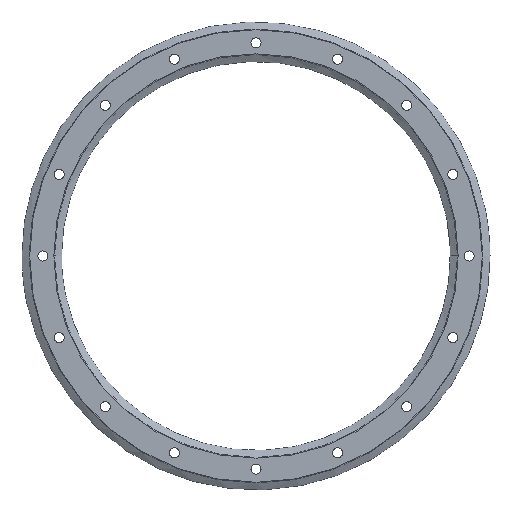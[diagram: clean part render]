
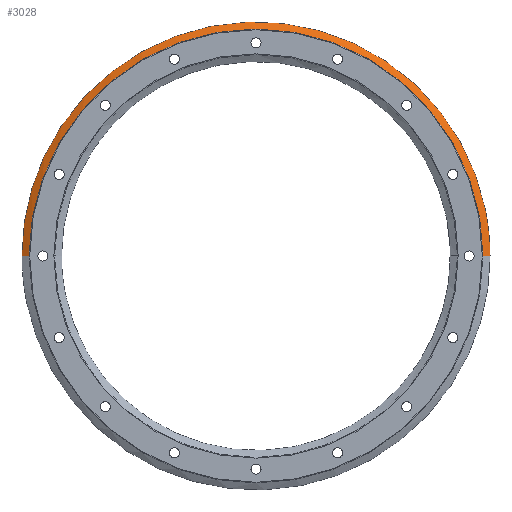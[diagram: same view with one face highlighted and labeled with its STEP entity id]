
A CAD part, top view. The second image highlights one B-rep face of the part: STEP entity #3028.
In plain terms, the highlighted conical face has half-angle 60.255 degrees and reference radius 86.57 mm.
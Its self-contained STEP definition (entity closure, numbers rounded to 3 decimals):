
#44 = AXIS2_PLACEMENT_3D ( 'NONE', #2201, #760, #475 ) ;
#81 = CARTESIAN_POINT ( 'NONE',  ( -89.37, 0., 0.7 ) ) ;
#115 = CARTESIAN_POINT ( 'NONE',  ( -17.067, 87.725, 0.7 ) ) ;
#121 = AXIS2_PLACEMENT_3D ( 'NONE', #1869, #3353, #3575 ) ;
#123 = AXIS2_PLACEMENT_3D ( 'NONE', #3334, #1280, #757 ) ;
#181 = CONICAL_SURFACE ( 'NONE', #2253, 86.57, 1.052 ) ;
#187 = CARTESIAN_POINT ( 'NONE',  ( 49.962, 74.099, 0.7 ) ) ;
#212 = CARTESIAN_POINT ( 'NONE',  ( 86.57, 0., 2.3 ) ) ;
#238 = AXIS2_PLACEMENT_3D ( 'NONE', #3079, #517, #2967 ) ;
#240 = CIRCLE ( 'NONE', #668, 89.37 ) ;
#274 = EDGE_CURVE ( 'NONE', #2383, #2773, #1086, .T. ) ;
#400 = VERTEX_POINT ( 'NONE', #3154 ) ;
#418 = CARTESIAN_POINT ( 'NONE',  ( 0., 0., 0.7 ) ) ;
#431 = CARTESIAN_POINT ( 'NONE',  ( -74.099, 49.962, 0.7 ) ) ;
#442 = CARTESIAN_POINT ( 'NONE',  ( -86.57, 0., 2.3 ) ) ;
#465 = ORIENTED_EDGE ( 'NONE', *, *, #2636, .F. ) ;
#475 = DIRECTION ( 'NONE',  ( 1., 0., 0. ) ) ;
#479 = CARTESIAN_POINT ( 'NONE',  ( 87.578, 17.803, 0.7 ) ) ;
#507 = FACE_OUTER_BOUND ( 'NONE', #3253, .T. ) ;
#510 = VERTEX_POINT ( 'NONE', #1644 ) ;
#517 = DIRECTION ( 'NONE',  ( 0., 0., -1. ) ) ;
#654 = ORIENTED_EDGE ( 'NONE', *, *, #980, .F. ) ;
#668 = AXIS2_PLACEMENT_3D ( 'NONE', #3552, #1251, #901 ) ;
#683 = DIRECTION ( 'NONE',  ( 0., 0., -1. ) ) ;
#710 = CARTESIAN_POINT ( 'NONE',  ( 86.685, 0., 2.234 ) ) ;
#748 = DIRECTION ( 'NONE',  ( -0.868, 0., -0.496 ) ) ;
#757 = DIRECTION ( 'NONE',  ( 1., 0., 0. ) ) ;
#760 = DIRECTION ( 'NONE',  ( 0., 0., -1. ) ) ;
#853 = ORIENTED_EDGE ( 'NONE', *, *, #1937, .F. ) ;
#871 = ORIENTED_EDGE ( 'NONE', *, *, #274, .F. ) ;
#901 = DIRECTION ( 'NONE',  ( 1., 0., 0. ) ) ;
#932 = DIRECTION ( 'NONE',  ( 0., 0., -1. ) ) ;
#980 = EDGE_CURVE ( 'NONE', #2669, #1382, #3285, .T. ) ;
#1010 = DIRECTION ( 'NONE',  ( -0.707, -0.707, 0. ) ) ;
#1086 = CIRCLE ( 'NONE', #2627, 89.37 ) ;
#1113 = AXIS2_PLACEMENT_3D ( 'NONE', #418, #683, #3514 ) ;
#1129 = CIRCLE ( 'NONE', #238, 89.37 ) ;
#1224 = CARTESIAN_POINT ( 'NONE',  ( -86.685, 0., 2.234 ) ) ;
#1251 = DIRECTION ( 'NONE',  ( 0., 0., -1. ) ) ;
#1280 = DIRECTION ( 'NONE',  ( 0., 0., -1. ) ) ;
#1300 = CARTESIAN_POINT ( 'NONE',  ( 0., 0., 0.7 ) ) ;
#1304 = DIRECTION ( 'NONE',  ( 0., 0., -1. ) ) ;
#1308 = ORIENTED_EDGE ( 'NONE', *, *, #2793, .F. ) ;
#1361 = VERTEX_POINT ( 'NONE', #2337 ) ;
#1382 = VERTEX_POINT ( 'NONE', #81 ) ;
#1424 = DIRECTION ( 'NONE',  ( 1., 0., 0. ) ) ;
#1428 = CARTESIAN_POINT ( 'NONE',  ( 0., 0., 0.7 ) ) ;
#1470 = VECTOR ( 'NONE', #2479, 1000. ) ;
#1512 = ORIENTED_EDGE ( 'NONE', *, *, #2122, .T. ) ;
#1534 = CIRCLE ( 'NONE', #1708, 89.37 ) ;
#1538 = CIRCLE ( 'NONE', #2981, 89.37 ) ;
#1559 = CARTESIAN_POINT ( 'NONE',  ( 0., 0., 0.7 ) ) ;
#1644 = CARTESIAN_POINT ( 'NONE',  ( 87.725, 17.067, 0.7 ) ) ;
#1697 = CIRCLE ( 'NONE', #1113, 89.37 ) ;
#1708 = AXIS2_PLACEMENT_3D ( 'NONE', #1428, #932, #2572 ) ;
#1869 = CARTESIAN_POINT ( 'NONE',  ( 0., 0., 0.7 ) ) ;
#1898 = CIRCLE ( 'NONE', #121, 89.37 ) ;
#1937 = EDGE_CURVE ( 'NONE', #1382, #2383, #1697, .T. ) ;
#2015 = EDGE_CURVE ( 'NONE', #2773, #2247, #2784, .T. ) ;
#2074 = ORIENTED_EDGE ( 'NONE', *, *, #3442, .F. ) ;
#2076 = CIRCLE ( 'NONE', #123, 89.37 ) ;
#2096 = CARTESIAN_POINT ( 'NONE',  ( -74.516, 49.339, 0.7 ) ) ;
#2122 = EDGE_CURVE ( 'NONE', #3096, #1361, #2763, .T. ) ;
#2157 = DIRECTION ( 'NONE',  ( 0., 0., -1. ) ) ;
#2201 = CARTESIAN_POINT ( 'NONE',  ( 0., 0., 0.7 ) ) ;
#2247 = VERTEX_POINT ( 'NONE', #2288 ) ;
#2253 = AXIS2_PLACEMENT_3D ( 'NONE', #2804, #2508, #3671 ) ;
#2276 = ORIENTED_EDGE ( 'NONE', *, *, #2015, .F. ) ;
#2288 = CARTESIAN_POINT ( 'NONE',  ( -17.803, 87.578, 0.7 ) ) ;
#2303 = VERTEX_POINT ( 'NONE', #115 ) ;
#2337 = CARTESIAN_POINT ( 'NONE',  ( 89.37, 0., 0.7 ) ) ;
#2383 = VERTEX_POINT ( 'NONE', #2096 ) ;
#2437 = ORIENTED_EDGE ( 'NONE', *, *, #3568, .F. ) ;
#2479 = DIRECTION ( 'NONE',  ( 0.868, 0., -0.496 ) ) ;
#2496 = DIRECTION ( 'NONE',  ( 0., 0., -1. ) ) ;
#2508 = DIRECTION ( 'NONE',  ( 0., 0., -1. ) ) ;
#2572 = DIRECTION ( 'NONE',  ( 0., 1., 0. ) ) ;
#2604 = VECTOR ( 'NONE', #748, 1000. ) ;
#2627 = AXIS2_PLACEMENT_3D ( 'NONE', #1559, #1304, #1010 ) ;
#2636 = EDGE_CURVE ( 'NONE', #2943, #510, #1534, .T. ) ;
#2669 = VERTEX_POINT ( 'NONE', #1224 ) ;
#2679 = ORIENTED_EDGE ( 'NONE', *, *, #3705, .T. ) ;
#2763 = LINE ( 'NONE', #212, #1470 ) ;
#2773 = VERTEX_POINT ( 'NONE', #431 ) ;
#2784 = CIRCLE ( 'NONE', #44, 89.37 ) ;
#2793 = EDGE_CURVE ( 'NONE', #3176, #2943, #1538, .T. ) ;
#2804 = CARTESIAN_POINT ( 'NONE',  ( 0., 0., 2.3 ) ) ;
#2860 = CIRCLE ( 'NONE', #3664, 86.685 ) ;
#2943 = VERTEX_POINT ( 'NONE', #479 ) ;
#2967 = DIRECTION ( 'NONE',  ( -0.707, 0.707, 0. ) ) ;
#2981 = AXIS2_PLACEMENT_3D ( 'NONE', #1300, #2157, #3561 ) ;
#3028 = ADVANCED_FACE ( 'NONE', ( #507 ), #181, .T. ) ;
#3029 = ORIENTED_EDGE ( 'NONE', *, *, #3243, .F. ) ;
#3079 = CARTESIAN_POINT ( 'NONE',  ( 0., 0., 0.7 ) ) ;
#3096 = VERTEX_POINT ( 'NONE', #710 ) ;
#3154 = CARTESIAN_POINT ( 'NONE',  ( 49.339, 74.516, 0.7 ) ) ;
#3167 = EDGE_CURVE ( 'NONE', #2303, #400, #1898, .T. ) ;
#3176 = VERTEX_POINT ( 'NONE', #187 ) ;
#3178 = ORIENTED_EDGE ( 'NONE', *, *, #3167, .F. ) ;
#3243 = EDGE_CURVE ( 'NONE', #400, #3176, #1129, .T. ) ;
#3253 = EDGE_LOOP ( 'NONE', ( #2679, #1512, #2074, #465, #1308, #3029, #3178, #2437, #2276, #871, #853, #654 ) ) ;
#3285 = LINE ( 'NONE', #442, #2604 ) ;
#3334 = CARTESIAN_POINT ( 'NONE',  ( 0., 0., 0.7 ) ) ;
#3353 = DIRECTION ( 'NONE',  ( 0., 0., -1. ) ) ;
#3425 = CARTESIAN_POINT ( 'NONE',  ( 0., 0., 2.234 ) ) ;
#3442 = EDGE_CURVE ( 'NONE', #510, #1361, #240, .T. ) ;
#3514 = DIRECTION ( 'NONE',  ( 1., 0., 0. ) ) ;
#3552 = CARTESIAN_POINT ( 'NONE',  ( 0., 0., 0.7 ) ) ;
#3561 = DIRECTION ( 'NONE',  ( 1., 0., 0. ) ) ;
#3568 = EDGE_CURVE ( 'NONE', #2247, #2303, #2076, .T. ) ;
#3575 = DIRECTION ( 'NONE',  ( 1., 0., 0. ) ) ;
#3664 = AXIS2_PLACEMENT_3D ( 'NONE', #3425, #2496, #1424 ) ;
#3671 = DIRECTION ( 'NONE',  ( -1., 0., 0. ) ) ;
#3705 = EDGE_CURVE ( 'NONE', #2669, #3096, #2860, .T. ) ;
